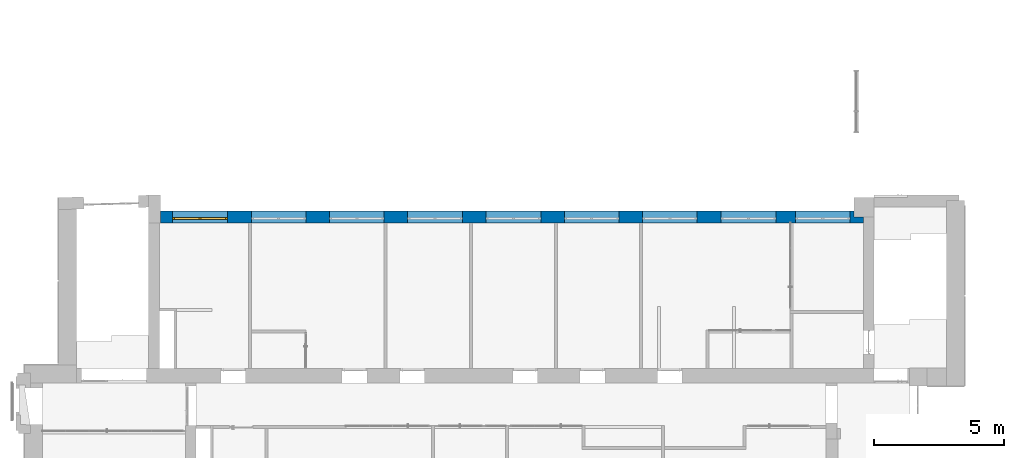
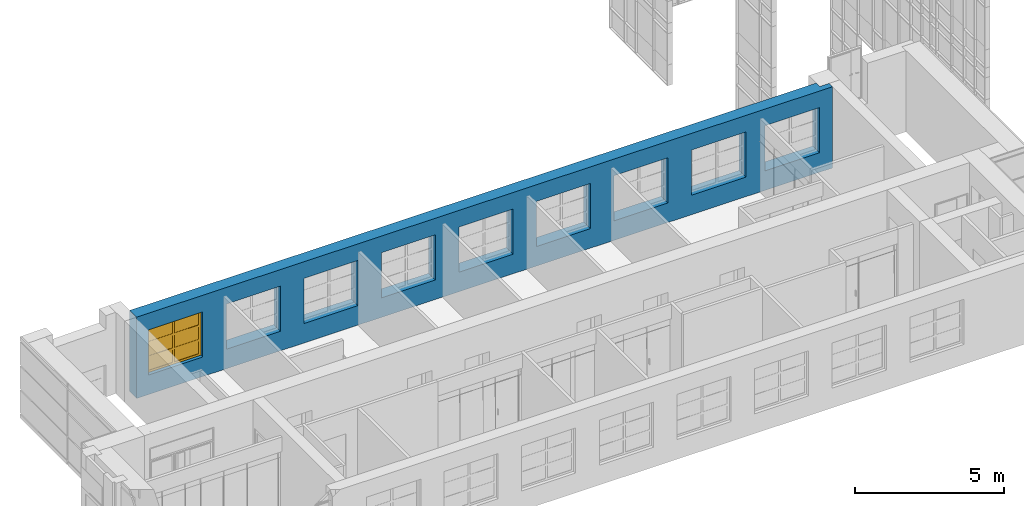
# One storey, part 59 of 73: 1 wall, 1 window, 9 openings.
"""IFC2X3 building model written with IfcOpenShell, lengths in millimetres."""

from ifc_helpers import new_model, entity, si_unit, converted_unit, derived_unit, direction, frame, frame_2d, origin, origin_2d_with_axis, place, context, subcontext, project, spatial, polyline, rectangle, outline, extrude, face_set, surface_model, source, transform, mapped, material, material_list, layer, layer_set, layer_usage, type_object, type_shapes, element, fill, save


model = new_model("IFC2X3")

# Units and contexts
model_context = context("Model", 3, precision=0.01, world=origin(), true_north=direction((6.12303176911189e-17, 1.0)))
body_context = subcontext(model_context, "Body", "Model", "MODEL_VIEW")
ifc_project = project(units=[si_unit("LENGTHUNIT", "METRE", prefix="MILLI"), si_unit("AREAUNIT", "SQUARE_METRE"), si_unit("VOLUMEUNIT", "CUBIC_METRE"), converted_unit("PLANEANGLEUNIT", "DEGREE", entity("IfcRatioMeasure", 0.0174532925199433), si_unit("PLANEANGLEUNIT", "RADIAN"), dimensions=[0, 0, 0, 0, 0, 0, 0]), si_unit("MASSUNIT", "GRAM", prefix="KILO"), derived_unit("MASSDENSITYUNIT", [(si_unit("MASSUNIT", "GRAM", prefix="KILO"), 1), (si_unit("LENGTHUNIT", "METRE"), -3)]), si_unit("TIMEUNIT", "SECOND"), si_unit("FREQUENCYUNIT", "HERTZ"), si_unit("THERMODYNAMICTEMPERATUREUNIT", "DEGREE_CELSIUS"), derived_unit("THERMALTRANSMITTANCEUNIT", [(si_unit("MASSUNIT", "GRAM", prefix="KILO"), 1), (si_unit("THERMODYNAMICTEMPERATUREUNIT", "KELVIN"), -1), (si_unit("TIMEUNIT", "SECOND"), -3)]), derived_unit("VOLUMETRICFLOWRATEUNIT", [(si_unit("LENGTHUNIT", "METRE"), 3), (si_unit("TIMEUNIT", "SECOND"), -1)]), si_unit("ELECTRICCURRENTUNIT", "AMPERE"), si_unit("ELECTRICVOLTAGEUNIT", "VOLT"), si_unit("POWERUNIT", "WATT"), si_unit("FORCEUNIT", "NEWTON", prefix="KILO"), si_unit("ILLUMINANCEUNIT", "LUX"), si_unit("LUMINOUSFLUXUNIT", "LUMEN"), si_unit("LUMINOUSINTENSITYUNIT", "CANDELA"), derived_unit("USERDEFINED", [(si_unit("MASSUNIT", "GRAM", prefix="KILO"), -1), (si_unit("LENGTHUNIT", "METRE"), -2), (si_unit("TIMEUNIT", "SECOND"), 3), (si_unit("LUMINOUSFLUXUNIT", "LUMEN"), 1)]), derived_unit("LINEARVELOCITYUNIT", [(si_unit("LENGTHUNIT", "METRE"), 1), (si_unit("TIMEUNIT", "SECOND"), -1)]), si_unit("PRESSUREUNIT", "PASCAL"), derived_unit("USERDEFINED", [(si_unit("LENGTHUNIT", "METRE"), -2), (si_unit("MASSUNIT", "GRAM", prefix="KILO"), 1), (si_unit("TIMEUNIT", "SECOND"), -2)])], contexts=[model_context])

# Site, building, storey
site_placement = place(None, frame((-151.875543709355, 2715.0, 0.0)))
site = spatial("IfcSite", under=ifc_project, at=site_placement, Name="Surface", CompositionType="ELEMENT")
building_placement = place(site_placement, origin())
building = spatial("IfcBuilding", under=site, at=building_placement, CompositionType="ELEMENT")
storey_placement = place(building_placement, frame((0.0, 0.0, 6730.43000000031)))
storey = spatial("IfcBuildingStorey", under=building, at=storey_placement, Name="3 korrus", CompositionType="ELEMENT", Elevation=6730.43000000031)

# Wall, openings, window
ifc_material_1 = material(Name="Brick, Common")
ifc_layer_1 = layer(ifc_material_1, 440.0)
ifc_material_2 = material(Name="__Kips GN13_tava")
ifc_layer_2 = layer(ifc_material_2, 20.0)
ifc_layer_set = layer_set([ifc_layer_1, ifc_layer_2], Name="Basic Wall:VS-1")
ifc_layer_usage = layer_usage(ifc_layer_set, "AXIS2", "POSITIVE", -230.0)
wall_type = type_object("IfcWallType", Name="Basic Wall:VS-1", PredefinedType="STANDARD", material=ifc_layer_set)
wall_placement = place(storey_placement, frame((31972.6162682, 12380.0, 0.00203353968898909), z_axis=(0.0, 0.0, 1.0), x_axis=(-1.0, 0.0, 0.0)))
wall = element("IfcWallStandardCase", 1, at=wall_placement, inside=storey, type_object=wall_type, material=ifc_layer_usage, Name="SEIN - 005", ObjectType="Basic Wall:VS-1", context=body_context, shape_type="SweptSolid", body=[
    extrude(outline(polyline([(26972.5418693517, -230.0), (26972.5418693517, 230.0), (0.0, 230.0), (0.0, 0.0), (370.0, 0.0), (370.0, -230.0), (26972.5418693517, -230.0)])), origin(), (0.0, 0.0, 1.0), 3329.56796646),
])
opening_1_placement = place(wall_placement, frame((31972.6162682, 12380.0, -0.00203353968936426), z_axis=(0.0, 0.0, 1.0), x_axis=(-1.0, 0.0, 0.0)))
opening_1 = element("IfcOpeningElement", 2, at=opening_1_placement, cuts=wall, Name="SEIN - 005", ObjectType="Opening", context=body_context, shape_type="SweptSolid", body=[
    extrude(rectangle(XDim=1850.0, YDim=2100.0, at=frame_2d((0.0, -5.6843418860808e-13), x_axis=(1.0, 0.0))), frame((6512.84934801, 13077.9, 1725.00203353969), z_axis=(0.0, -1.0, 0.0), x_axis=(0.0, 0.0, 1.0)), (0.0, 0.0, 1.0), 1393.8),
])
opening_2_placement = place(wall_placement, frame((31972.6162682, 12380.0, -0.00203353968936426), z_axis=(0.0, 0.0, 1.0), x_axis=(-1.0, 0.0, 0.0)))
element("IfcOpeningElement", 3, at=opening_2_placement, cuts=wall, Name="SEIN - 005", ObjectType="Opening", context=body_context, shape_type="SweptSolid", body=[
    extrude(rectangle(XDim=1850.0, YDim=2100.0, at=origin_2d_with_axis()), frame((9532.84934801, 13077.9, 1725.00203353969), z_axis=(0.0, -1.0, 0.0), x_axis=(0.0, 0.0, 1.0)), (0.0, 0.0, 1.0), 1393.8),
])
opening_3_placement = place(wall_placement, frame((31972.6162682, 12380.0, -0.00203353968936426), z_axis=(0.0, 0.0, 1.0), x_axis=(-1.0, 0.0, 0.0)))
element("IfcOpeningElement", 4, at=opening_3_placement, cuts=wall, Name="SEIN - 005", ObjectType="Opening", context=body_context, shape_type="SweptSolid", body=[
    extrude(rectangle(XDim=1850.0, YDim=2100.0, at=frame_2d((0.0, -1.02318153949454e-12), x_axis=(1.0, 0.0))), frame((12532.84934801, 13077.9, 1725.00203353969), z_axis=(0.0, -1.0, 0.0), x_axis=(0.0, 0.0, 1.0)), (0.0, 0.0, 1.0), 1393.8),
])
opening_4_placement = place(wall_placement, frame((31972.6162682, 12380.0, -0.00203353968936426), z_axis=(0.0, 0.0, 1.0), x_axis=(-1.0, 0.0, 0.0)))
element("IfcOpeningElement", 5, at=opening_4_placement, cuts=wall, Name="SEIN - 005", ObjectType="Opening", context=body_context, shape_type="SweptSolid", body=[
    extrude(rectangle(XDim=1850.0, YDim=2100.0, at=origin_2d_with_axis()), frame((15532.849348, 13077.9, 1725.00203353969), z_axis=(0.0, -1.0, 0.0), x_axis=(0.0, 0.0, 1.0)), (0.0, 0.0, 1.0), 1393.8),
])
opening_5_placement = place(wall_placement, frame((31972.6162682, 12380.0, -0.00203353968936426), z_axis=(0.0, 0.0, 1.0), x_axis=(-1.0, 0.0, 0.0)))
element("IfcOpeningElement", 6, at=opening_5_placement, cuts=wall, Name="SEIN - 005", ObjectType="Opening", context=body_context, shape_type="SweptSolid", body=[
    extrude(rectangle(XDim=1850.0, YDim=2100.0, at=origin_2d_with_axis()), frame((18542.849348, 13077.9, 1725.00203353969), z_axis=(0.0, -1.0, 0.0), x_axis=(0.0, 0.0, 1.0)), (0.0, 0.0, 1.0), 1393.8),
])
opening_6_placement = place(wall_placement, frame((31972.6162682, 12380.0, -0.00203353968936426), z_axis=(0.0, 0.0, 1.0), x_axis=(-1.0, 0.0, 0.0)))
element("IfcOpeningElement", 7, at=opening_6_placement, cuts=wall, Name="SEIN - 005", ObjectType="Opening", context=body_context, shape_type="SweptSolid", body=[
    extrude(rectangle(XDim=1850.0, YDim=2100.0, at=origin_2d_with_axis()), frame((21543.0530903, 13077.9, 1725.00203353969), z_axis=(0.0, -1.0, 0.0), x_axis=(0.0, 0.0, 1.0)), (0.0, 0.0, 1.0), 1393.8),
])
opening_7_placement = place(wall_placement, frame((31972.6162682, 12380.0, -0.00203353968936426), z_axis=(0.0, 0.0, 1.0), x_axis=(-1.0, 0.0, 0.0)))
element("IfcOpeningElement", 8, at=opening_7_placement, cuts=wall, Name="SEIN - 005", ObjectType="Opening", context=body_context, shape_type="SweptSolid", body=[
    extrude(rectangle(XDim=1850.0, YDim=2100.0, at=origin_2d_with_axis()), frame((24543.0530903, 13077.9, 1725.00203353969), z_axis=(0.0, -1.0, 0.0), x_axis=(0.0, 0.0, 1.0)), (0.0, 0.0, 1.0), 1393.8),
])
opening_8_placement = place(wall_placement, frame((31972.6162682, 12380.0, -0.00203353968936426), z_axis=(0.0, 0.0, 1.0), x_axis=(-1.0, 0.0, 0.0)))
element("IfcOpeningElement", 9, at=opening_8_placement, cuts=wall, Name="SEIN - 005", ObjectType="Opening", context=body_context, shape_type="SweptSolid", body=[
    extrude(rectangle(XDim=1850.0, YDim=2100.0, at=origin_2d_with_axis()), frame((27563.0530903, 13077.9, 1725.00203353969), z_axis=(0.0, -1.0, 0.0), x_axis=(0.0, 0.0, 1.0)), (0.0, 0.0, 1.0), 1393.8),
])
opening_9_placement = place(wall_placement, frame((31972.6162682, 12380.0, -0.00203353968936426), z_axis=(0.0, 0.0, 1.0), x_axis=(-1.0, 0.0, 0.0)))
element("IfcOpeningElement", 10, at=opening_9_placement, cuts=wall, Name="SEIN - 005", ObjectType="Opening", context=body_context, shape_type="SweptSolid", body=[
    extrude(rectangle(XDim=1850.0, YDim=2100.0, at=origin_2d_with_axis()), frame((30412.5729235, 13077.9, 1725.00203353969), z_axis=(0.0, -1.0, 0.0), x_axis=(0.0, 0.0, 1.0)), (0.0, 0.0, 1.0), 1393.8),
])
ifc_material_3 = material(Name="Paint - Titanium White")
ifc_material_4 = material(Name="Paint - Dark Gray")
ifc_material_5 = material(Name="Glass - Clear Fast")
ifc_material_list_1 = material_list([ifc_material_3, ifc_material_4, ifc_material_5])
ifc_material_list_2 = material_list([ifc_material_3, ifc_material_4, ifc_material_5])
window_style = type_object("IfcWindowStyle", Name="Aken_1850x2100", ConstructionType="NOTDEFINED", OperationType="DOUBLE_PANEL_VERTICAL", ParameterTakesPrecedence=False, Sizeable=False, material=ifc_material_list_2)
shared_shape = source(origin(), body_context, "Body", "SurfaceModel", [
    surface_model("IfcFaceBasedSurfaceModel", [(80.0, -665.9, 1770.0), (80.0, -620.9, 1770.0), (0.0, -620.9, 1770.0), (0.0, -665.9, 1770.0), (80.0, -665.9, 80.0), (80.0, -620.9, 80.0), (80.0, -620.9, 1770.0), (80.0, -665.9, 1770.0), (80.0, -620.9, 1770.0), (80.0, -620.9, 80.0), (0.0, -620.9, 80.0), (0.0, -620.9, 1770.0), (0.0, -665.9, 1770.0), (0.0, -620.9, 1770.0), (0.0, -620.9, 80.0), (0.0, -665.9, 80.0), (80.0, -665.9, 1770.0), (0.0, -665.9, 1770.0), (0.0, -665.9, 80.0), (80.0, -665.9, 80.0), (0.0, -665.9, 80.0), (0.0, -620.9, 80.0), (80.0, -620.9, 80.0), (80.0, -665.9, 80.0), (2020.0, -665.9, 80.0), (2020.0, -620.9, 80.0), (2100.0, -620.9, 80.0), (2100.0, -665.9, 80.0), (2020.0, -665.9, 1770.0), (2020.0, -620.9, 1770.0), (2020.0, -620.9, 80.0), (2020.0, -665.9, 80.0), (2020.0, -620.9, 80.0), (2020.0, -620.9, 1770.0), (2100.0, -620.9, 1770.0), (2100.0, -620.9, 80.0), (2100.0, -665.9, 80.0), (2100.0, -620.9, 80.0), (2100.0, -620.9, 1770.0), (2100.0, -665.9, 1770.0), (2020.0, -665.9, 80.0), (2100.0, -665.9, 80.0), (2100.0, -665.9, 1770.0), (2020.0, -665.9, 1770.0), (2100.0, -665.9, 1770.0), (2100.0, -620.9, 1770.0), (2020.0, -620.9, 1770.0), (2020.0, -665.9, 1770.0), (1010.0, -665.9, 80.0), (1010.0, -620.9, 80.0), (1090.0, -620.9, 80.0), (1090.0, -665.9, 80.0), (1010.0, -665.9, 1770.0), (1010.0, -620.9, 1770.0), (1010.0, -620.9, 80.0), (1010.0, -665.9, 80.0), (1010.0, -620.9, 80.0), (1010.0, -620.9, 1770.0), (1090.0, -620.9, 1770.0), (1090.0, -620.9, 80.0), (1090.0, -665.9, 80.0), (1090.0, -620.9, 80.0), (1090.0, -620.9, 1770.0), (1090.0, -665.9, 1770.0), (1010.0, -665.9, 80.0), (1090.0, -665.9, 80.0), (1090.0, -665.9, 1770.0), (1010.0, -665.9, 1770.0), (1090.0, -665.9, 1770.0), (1090.0, -620.9, 1770.0), (1010.0, -620.9, 1770.0), (1010.0, -665.9, 1770.0), (80.0, -665.9, 80.0), (80.0, -620.9, 80.0), (0.0, -620.9, 80.0), (0.0, -665.9, 80.0), (1010.0, -665.9, 80.0), (1010.0, -620.9, 80.0), (80.0, -620.9, 80.0), (80.0, -665.9, 80.0), (80.0, -620.9, 80.0), (1010.0, -620.9, 80.0), (1090.0, -620.9, 80.0), (2020.0, -620.9, 80.0), (2100.0, -620.9, 80.0), (2100.0, -620.9, 0.0), (0.0, -620.9, 0.0), (0.0, -620.9, 80.0), (0.0, -665.9, 80.0), (0.0, -620.9, 80.0), (0.0, -620.9, 0.0), (0.0, -665.9, 0.0), (80.0, -665.9, 80.0), (0.0, -665.9, 80.0), (0.0, -665.9, 0.0), (2100.0, -665.9, 0.0), (2100.0, -665.9, 80.0), (2020.0, -665.9, 80.0), (1090.0, -665.9, 80.0), (1010.0, -665.9, 80.0), (1090.0, -665.9, 80.0), (1090.0, -620.9, 80.0), (1010.0, -620.9, 80.0), (1010.0, -665.9, 80.0), (2020.0, -665.9, 80.0), (2020.0, -620.9, 80.0), (1090.0, -620.9, 80.0), (1090.0, -665.9, 80.0), (2100.0, -665.9, 80.0), (2100.0, -620.9, 80.0), (2020.0, -620.9, 80.0), (2020.0, -665.9, 80.0), (2100.0, -665.9, 0.0), (2100.0, -620.9, 0.0), (2100.0, -620.9, 80.0), (2100.0, -665.9, 80.0), (0.0, -665.9, 0.0), (0.0, -620.9, 0.0), (2100.0, -620.9, 0.0), (2100.0, -665.9, 0.0), (1010.0, -665.9, 1770.0), (1010.0, -620.9, 1770.0), (1090.0, -620.9, 1770.0), (1090.0, -665.9, 1770.0), (80.0, -665.9, 1770.0), (80.0, -620.9, 1770.0), (1010.0, -620.9, 1770.0), (1010.0, -665.9, 1770.0), (1010.0, -620.9, 1770.0), (80.0, -620.9, 1770.0), (0.0, -620.9, 1770.0), (0.0, -620.9, 1850.0), (2100.0, -620.9, 1850.0), (2100.0, -620.9, 1770.0), (2020.0, -620.9, 1770.0), (1090.0, -620.9, 1770.0), (1090.0, -665.9, 1770.0), (1090.0, -620.9, 1770.0), (2020.0, -620.9, 1770.0), (2020.0, -665.9, 1770.0), (1010.0, -665.9, 1770.0), (1090.0, -665.9, 1770.0), (2020.0, -665.9, 1770.0), (2100.0, -665.9, 1770.0), (2100.0, -665.9, 1850.0), (0.0, -665.9, 1850.0), (0.0, -665.9, 1770.0), (80.0, -665.9, 1770.0), (0.0, -665.9, 1770.0), (0.0, -620.9, 1770.0), (80.0, -620.9, 1770.0), (80.0, -665.9, 1770.0), (0.0, -665.9, 1850.0), (0.0, -620.9, 1850.0), (0.0, -620.9, 1770.0), (0.0, -665.9, 1770.0), (2100.0, -665.9, 1850.0), (2100.0, -620.9, 1850.0), (0.0, -620.9, 1850.0), (0.0, -665.9, 1850.0), (2100.0, -665.9, 1770.0), (2100.0, -620.9, 1770.0), (2100.0, -620.9, 1850.0), (2100.0, -665.9, 1850.0), (2020.0, -665.9, 1770.0), (2020.0, -620.9, 1770.0), (2100.0, -620.9, 1770.0), (2100.0, -665.9, 1770.0), (80.0, -640.9, 590.0), (80.0, -630.9, 590.0), (1010.0, -630.9, 590.0), (1010.0, -640.9, 590.0), (80.0, -640.9, 670.0), (80.0, -630.9, 670.0), (80.0, -630.9, 590.0), (80.0, -640.9, 590.0), (80.0, -630.9, 590.0), (80.0, -630.9, 670.0), (1010.0, -630.9, 670.0), (1010.0, -630.9, 590.0), (1010.0, -640.9, 590.0), (1010.0, -630.9, 590.0), (1010.0, -630.9, 670.0), (1010.0, -640.9, 670.0), (80.0, -640.9, 590.0), (1010.0, -640.9, 590.0), (1010.0, -640.9, 670.0), (80.0, -640.9, 670.0), (1010.0, -640.9, 670.0), (1010.0, -630.9, 670.0), (80.0, -630.9, 670.0), (80.0, -640.9, 670.0), (80.0, -640.9, 1180.0), (80.0, -630.9, 1180.0), (1010.0, -630.9, 1180.0), (1010.0, -640.9, 1180.0), (80.0, -640.9, 1260.0), (80.0, -630.9, 1260.0), (80.0, -630.9, 1180.0), (80.0, -640.9, 1180.0), (80.0, -630.9, 1180.0), (80.0, -630.9, 1260.0), (1010.0, -630.9, 1260.0), (1010.0, -630.9, 1180.0), (1010.0, -640.9, 1180.0), (1010.0, -630.9, 1180.0), (1010.0, -630.9, 1260.0), (1010.0, -640.9, 1260.0), (80.0, -640.9, 1180.0), (1010.0, -640.9, 1180.0), (1010.0, -640.9, 1260.0), (80.0, -640.9, 1260.0), (1010.0, -640.9, 1260.0), (1010.0, -630.9, 1260.0), (80.0, -630.9, 1260.0), (80.0, -640.9, 1260.0), (1090.0, -640.9, 590.0), (1090.0, -630.9, 590.0), (2020.0, -630.9, 590.0), (2020.0, -640.9, 590.0), (1090.0, -640.9, 670.0), (1090.0, -630.9, 670.0), (1090.0, -630.9, 590.0), (1090.0, -640.9, 590.0), (1090.0, -630.9, 590.0), (1090.0, -630.9, 670.0), (2020.0, -630.9, 670.0), (2020.0, -630.9, 590.0), (2020.0, -640.9, 590.0), (2020.0, -630.9, 590.0), (2020.0, -630.9, 670.0), (2020.0, -640.9, 670.0), (1090.0, -640.9, 590.0), (2020.0, -640.9, 590.0), (2020.0, -640.9, 670.0), (1090.0, -640.9, 670.0), (2020.0, -640.9, 670.0), (2020.0, -630.9, 670.0), (1090.0, -630.9, 670.0), (1090.0, -640.9, 670.0), (1090.0, -640.9, 1180.0), (1090.0, -630.9, 1180.0), (2020.0, -630.9, 1180.0), (2020.0, -640.9, 1180.0), (1090.0, -640.9, 1260.0), (1090.0, -630.9, 1260.0), (1090.0, -630.9, 1180.0), (1090.0, -640.9, 1180.0), (1090.0, -630.9, 1180.0), (1090.0, -630.9, 1260.0), (2020.0, -630.9, 1260.0), (2020.0, -630.9, 1180.0), (2020.0, -640.9, 1180.0), (2020.0, -630.9, 1180.0), (2020.0, -630.9, 1260.0), (2020.0, -640.9, 1260.0), (1090.0, -640.9, 1180.0), (2020.0, -640.9, 1180.0), (2020.0, -640.9, 1260.0), (1090.0, -640.9, 1260.0), (2020.0, -640.9, 1260.0), (2020.0, -630.9, 1260.0), (1090.0, -630.9, 1260.0), (1090.0, -640.9, 1260.0)], [face_set([[[0, 1, 2, 3]]]), face_set([[[4, 5, 6, 7]]]), face_set([[[8, 9, 10, 11]]]), face_set([[[12, 13, 14, 15]]]), face_set([[[16, 17, 18, 19]]]), face_set([[[20, 21, 22, 23]]]), face_set([[[24, 25, 26, 27]]]), face_set([[[28, 29, 30, 31]]]), face_set([[[32, 33, 34, 35]]]), face_set([[[36, 37, 38, 39]]]), face_set([[[40, 41, 42, 43]]]), face_set([[[44, 45, 46, 47]]]), face_set([[[48, 49, 50, 51]]]), face_set([[[52, 53, 54, 55]]]), face_set([[[56, 57, 58, 59]]]), face_set([[[60, 61, 62, 63]]]), face_set([[[64, 65, 66, 67]]]), face_set([[[68, 69, 70, 71]]]), face_set([[[72, 73, 74, 75]]]), face_set([[[76, 77, 78, 79]]]), face_set([[[80, 81, 82, 83, 84, 85, 86, 87]]]), face_set([[[88, 89, 90, 91]]]), face_set([[[92, 93, 94, 95, 96, 97, 98, 99]]]), face_set([[[100, 101, 102, 103]]]), face_set([[[104, 105, 106, 107]]]), face_set([[[108, 109, 110, 111]]]), face_set([[[112, 113, 114, 115]]]), face_set([[[116, 117, 118, 119]]]), face_set([[[120, 121, 122, 123]]]), face_set([[[124, 125, 126, 127]]]), face_set([[[128, 129, 130, 131, 132, 133, 134, 135]]]), face_set([[[136, 137, 138, 139]]]), face_set([[[140, 141, 142, 143, 144, 145, 146, 147]]]), face_set([[[148, 149, 150, 151]]]), face_set([[[152, 153, 154, 155]]]), face_set([[[156, 157, 158, 159]]]), face_set([[[160, 161, 162, 163]]]), face_set([[[164, 165, 166, 167]]]), face_set([[[168, 169, 170, 171]]]), face_set([[[172, 173, 174, 175]]]), face_set([[[176, 177, 178, 179]]]), face_set([[[180, 181, 182, 183]]]), face_set([[[184, 185, 186, 187]]]), face_set([[[188, 189, 190, 191]]]), face_set([[[192, 193, 194, 195]]]), face_set([[[196, 197, 198, 199]]]), face_set([[[200, 201, 202, 203]]]), face_set([[[204, 205, 206, 207]]]), face_set([[[208, 209, 210, 211]]]), face_set([[[212, 213, 214, 215]]]), face_set([[[216, 217, 218, 219]]]), face_set([[[220, 221, 222, 223]]]), face_set([[[224, 225, 226, 227]]]), face_set([[[228, 229, 230, 231]]]), face_set([[[232, 233, 234, 235]]]), face_set([[[236, 237, 238, 239]]]), face_set([[[240, 241, 242, 243]]]), face_set([[[244, 245, 246, 247]]]), face_set([[[248, 249, 250, 251]]]), face_set([[[252, 253, 254, 255]]]), face_set([[[256, 257, 258, 259]]]), face_set([[[260, 261, 262, 263]]])]),
    surface_model("IfcFaceBasedSurfaceModel", [(80.0, -620.9, 1770.0), (80.0, -595.9, 1770.0), (0.0, -595.9, 1770.0), (0.0, -620.9, 1770.0), (80.0, -620.9, 80.0), (80.0, -595.9, 80.0), (80.0, -595.9, 1770.0), (80.0, -620.9, 1770.0), (80.0, -595.9, 1770.0), (80.0, -595.9, 80.0), (0.0, -595.9, 80.0), (0.0, -595.9, 1770.0), (0.0, -620.9, 1770.0), (0.0, -595.9, 1770.0), (0.0, -595.9, 80.0), (0.0, -620.9, 80.0), (80.0, -620.9, 1770.0), (0.0, -620.9, 1770.0), (0.0, -620.9, 80.0), (80.0, -620.9, 80.0), (0.0, -620.9, 80.0), (0.0, -595.9, 80.0), (80.0, -595.9, 80.0), (80.0, -620.9, 80.0), (2020.0, -620.9, 80.0), (2020.0, -595.9, 80.0), (2100.0, -595.9, 80.0), (2100.0, -620.9, 80.0), (2020.0, -620.9, 1770.0), (2020.0, -595.9, 1770.0), (2020.0, -595.9, 80.0), (2020.0, -620.9, 80.0), (2020.0, -595.9, 80.0), (2020.0, -595.9, 1770.0), (2100.0, -595.9, 1770.0), (2100.0, -595.9, 80.0), (2100.0, -620.9, 80.0), (2100.0, -595.9, 80.0), (2100.0, -595.9, 1770.0), (2100.0, -620.9, 1770.0), (2020.0, -620.9, 80.0), (2100.0, -620.9, 80.0), (2100.0, -620.9, 1770.0), (2020.0, -620.9, 1770.0), (2100.0, -620.9, 1770.0), (2100.0, -595.9, 1770.0), (2020.0, -595.9, 1770.0), (2020.0, -620.9, 1770.0), (1010.0, -620.9, 80.0), (1010.0, -595.9, 80.0), (1090.0, -595.9, 80.0), (1090.0, -620.9, 80.0), (1010.0, -620.9, 1770.0), (1010.0, -595.9, 1770.0), (1010.0, -595.9, 80.0), (1010.0, -620.9, 80.0), (1010.0, -595.9, 80.0), (1010.0, -595.9, 1770.0), (1090.0, -595.9, 1770.0), (1090.0, -595.9, 80.0), (1090.0, -620.9, 80.0), (1090.0, -595.9, 80.0), (1090.0, -595.9, 1770.0), (1090.0, -620.9, 1770.0), (1010.0, -620.9, 80.0), (1090.0, -620.9, 80.0), (1090.0, -620.9, 1770.0), (1010.0, -620.9, 1770.0), (1090.0, -620.9, 1770.0), (1090.0, -595.9, 1770.0), (1010.0, -595.9, 1770.0), (1010.0, -620.9, 1770.0), (80.0, -620.9, 80.0), (80.0, -595.9, 80.0), (0.0, -595.9, 80.0), (0.0, -620.9, 80.0), (1010.0, -620.9, 80.0), (1010.0, -595.9, 80.0), (80.0, -595.9, 80.0), (80.0, -620.9, 80.0), (80.0, -595.9, 80.0), (1010.0, -595.9, 80.0), (1090.0, -595.9, 80.0), (2020.0, -595.9, 80.0), (2100.0, -595.9, 80.0), (2100.0, -595.9, 0.0), (0.0, -595.9, 0.0), (0.0, -595.9, 80.0), (0.0, -620.9, 80.0), (0.0, -595.9, 80.0), (0.0, -595.9, 0.0), (0.0, -620.9, 0.0), (80.0, -620.9, 80.0), (0.0, -620.9, 80.0), (0.0, -620.9, 0.0), (2100.0, -620.9, 0.0), (2100.0, -620.9, 80.0), (2020.0, -620.9, 80.0), (1090.0, -620.9, 80.0), (1010.0, -620.9, 80.0), (1090.0, -620.9, 80.0), (1090.0, -595.9, 80.0), (1010.0, -595.9, 80.0), (1010.0, -620.9, 80.0), (2020.0, -620.9, 80.0), (2020.0, -595.9, 80.0), (1090.0, -595.9, 80.0), (1090.0, -620.9, 80.0), (2100.0, -620.9, 80.0), (2100.0, -595.9, 80.0), (2020.0, -595.9, 80.0), (2020.0, -620.9, 80.0), (2100.0, -620.9, 0.0), (2100.0, -595.9, 0.0), (2100.0, -595.9, 80.0), (2100.0, -620.9, 80.0), (0.0, -620.9, 0.0), (0.0, -595.9, 0.0), (2100.0, -595.9, 0.0), (2100.0, -620.9, 0.0), (1010.0, -620.9, 1770.0), (1010.0, -595.9, 1770.0), (1090.0, -595.9, 1770.0), (1090.0, -620.9, 1770.0), (80.0, -620.9, 1770.0), (80.0, -595.9, 1770.0), (1010.0, -595.9, 1770.0), (1010.0, -620.9, 1770.0), (1010.0, -595.9, 1770.0), (80.0, -595.9, 1770.0), (0.0, -595.9, 1770.0), (0.0, -595.9, 1850.0), (2100.0, -595.9, 1850.0), (2100.0, -595.9, 1770.0), (2020.0, -595.9, 1770.0), (1090.0, -595.9, 1770.0), (1090.0, -620.9, 1770.0), (1090.0, -595.9, 1770.0), (2020.0, -595.9, 1770.0), (2020.0, -620.9, 1770.0), (1010.0, -620.9, 1770.0), (1090.0, -620.9, 1770.0), (2020.0, -620.9, 1770.0), (2100.0, -620.9, 1770.0), (2100.0, -620.9, 1850.0), (0.0, -620.9, 1850.0), (0.0, -620.9, 1770.0), (80.0, -620.9, 1770.0), (0.0, -620.9, 1770.0), (0.0, -595.9, 1770.0), (80.0, -595.9, 1770.0), (80.0, -620.9, 1770.0), (0.0, -620.9, 1850.0), (0.0, -595.9, 1850.0), (0.0, -595.9, 1770.0), (0.0, -620.9, 1770.0), (2100.0, -620.9, 1850.0), (2100.0, -595.9, 1850.0), (0.0, -595.9, 1850.0), (0.0, -620.9, 1850.0), (2100.0, -620.9, 1770.0), (2100.0, -595.9, 1770.0), (2100.0, -595.9, 1850.0), (2100.0, -620.9, 1850.0), (2020.0, -620.9, 1770.0), (2020.0, -595.9, 1770.0), (2100.0, -595.9, 1770.0), (2100.0, -620.9, 1770.0), (80.0, -630.9, 590.0), (80.0, -600.9, 590.0), (1010.0, -600.9, 590.0), (1010.0, -630.9, 590.0), (80.0, -630.9, 670.0), (80.0, -600.9, 670.0), (80.0, -600.9, 590.0), (80.0, -630.9, 590.0), (80.0, -600.9, 590.0), (80.0, -600.9, 670.0), (1010.0, -600.9, 670.0), (1010.0, -600.9, 590.0), (1010.0, -630.9, 590.0), (1010.0, -600.9, 590.0), (1010.0, -600.9, 670.0), (1010.0, -630.9, 670.0), (80.0, -630.9, 590.0), (1010.0, -630.9, 590.0), (1010.0, -630.9, 670.0), (80.0, -630.9, 670.0), (1010.0, -630.9, 670.0), (1010.0, -600.9, 670.0), (80.0, -600.9, 670.0), (80.0, -630.9, 670.0), (80.0, -630.9, 1180.0), (80.0, -600.9, 1180.0), (1010.0, -600.9, 1180.0), (1010.0, -630.9, 1180.0), (80.0, -630.9, 1260.0), (80.0, -600.9, 1260.0), (80.0, -600.9, 1180.0), (80.0, -630.9, 1180.0), (80.0, -600.9, 1180.0), (80.0, -600.9, 1260.0), (1010.0, -600.9, 1260.0), (1010.0, -600.9, 1180.0), (1010.0, -630.9, 1180.0), (1010.0, -600.9, 1180.0), (1010.0, -600.9, 1260.0), (1010.0, -630.9, 1260.0), (80.0, -630.9, 1180.0), (1010.0, -630.9, 1180.0), (1010.0, -630.9, 1260.0), (80.0, -630.9, 1260.0), (1010.0, -630.9, 1260.0), (1010.0, -600.9, 1260.0), (80.0, -600.9, 1260.0), (80.0, -630.9, 1260.0), (1090.0, -630.9, 590.0), (1090.0, -600.9, 590.0), (2020.0, -600.9, 590.0), (2020.0, -630.9, 590.0), (1090.0, -630.9, 670.0), (1090.0, -600.9, 670.0), (1090.0, -600.9, 590.0), (1090.0, -630.9, 590.0), (1090.0, -600.9, 590.0), (1090.0, -600.9, 670.0), (2020.0, -600.9, 670.0), (2020.0, -600.9, 590.0), (2020.0, -630.9, 590.0), (2020.0, -600.9, 590.0), (2020.0, -600.9, 670.0), (2020.0, -630.9, 670.0), (1090.0, -630.9, 590.0), (2020.0, -630.9, 590.0), (2020.0, -630.9, 670.0), (1090.0, -630.9, 670.0), (2020.0, -630.9, 670.0), (2020.0, -600.9, 670.0), (1090.0, -600.9, 670.0), (1090.0, -630.9, 670.0), (1090.0, -630.9, 1180.0), (1090.0, -600.9, 1180.0), (2020.0, -600.9, 1180.0), (2020.0, -630.9, 1180.0), (1090.0, -630.9, 1260.0), (1090.0, -600.9, 1260.0), (1090.0, -600.9, 1180.0), (1090.0, -630.9, 1180.0), (1090.0, -600.9, 1180.0), (1090.0, -600.9, 1260.0), (2020.0, -600.9, 1260.0), (2020.0, -600.9, 1180.0), (2020.0, -630.9, 1180.0), (2020.0, -600.9, 1180.0), (2020.0, -600.9, 1260.0), (2020.0, -630.9, 1260.0), (1090.0, -630.9, 1180.0), (2020.0, -630.9, 1180.0), (2020.0, -630.9, 1260.0), (1090.0, -630.9, 1260.0), (2020.0, -630.9, 1260.0), (2020.0, -600.9, 1260.0), (1090.0, -600.9, 1260.0), (1090.0, -630.9, 1260.0)], [face_set([[[0, 1, 2, 3]]]), face_set([[[4, 5, 6, 7]]]), face_set([[[8, 9, 10, 11]]]), face_set([[[12, 13, 14, 15]]]), face_set([[[16, 17, 18, 19]]]), face_set([[[20, 21, 22, 23]]]), face_set([[[24, 25, 26, 27]]]), face_set([[[28, 29, 30, 31]]]), face_set([[[32, 33, 34, 35]]]), face_set([[[36, 37, 38, 39]]]), face_set([[[40, 41, 42, 43]]]), face_set([[[44, 45, 46, 47]]]), face_set([[[48, 49, 50, 51]]]), face_set([[[52, 53, 54, 55]]]), face_set([[[56, 57, 58, 59]]]), face_set([[[60, 61, 62, 63]]]), face_set([[[64, 65, 66, 67]]]), face_set([[[68, 69, 70, 71]]]), face_set([[[72, 73, 74, 75]]]), face_set([[[76, 77, 78, 79]]]), face_set([[[80, 81, 82, 83, 84, 85, 86, 87]]]), face_set([[[88, 89, 90, 91]]]), face_set([[[92, 93, 94, 95, 96, 97, 98, 99]]]), face_set([[[100, 101, 102, 103]]]), face_set([[[104, 105, 106, 107]]]), face_set([[[108, 109, 110, 111]]]), face_set([[[112, 113, 114, 115]]]), face_set([[[116, 117, 118, 119]]]), face_set([[[120, 121, 122, 123]]]), face_set([[[124, 125, 126, 127]]]), face_set([[[128, 129, 130, 131, 132, 133, 134, 135]]]), face_set([[[136, 137, 138, 139]]]), face_set([[[140, 141, 142, 143, 144, 145, 146, 147]]]), face_set([[[148, 149, 150, 151]]]), face_set([[[152, 153, 154, 155]]]), face_set([[[156, 157, 158, 159]]]), face_set([[[160, 161, 162, 163]]]), face_set([[[164, 165, 166, 167]]]), face_set([[[168, 169, 170, 171]]]), face_set([[[172, 173, 174, 175]]]), face_set([[[176, 177, 178, 179]]]), face_set([[[180, 181, 182, 183]]]), face_set([[[184, 185, 186, 187]]]), face_set([[[188, 189, 190, 191]]]), face_set([[[192, 193, 194, 195]]]), face_set([[[196, 197, 198, 199]]]), face_set([[[200, 201, 202, 203]]]), face_set([[[204, 205, 206, 207]]]), face_set([[[208, 209, 210, 211]]]), face_set([[[212, 213, 214, 215]]]), face_set([[[216, 217, 218, 219]]]), face_set([[[220, 221, 222, 223]]]), face_set([[[224, 225, 226, 227]]]), face_set([[[228, 229, 230, 231]]]), face_set([[[232, 233, 234, 235]]]), face_set([[[236, 237, 238, 239]]]), face_set([[[240, 241, 242, 243]]]), face_set([[[244, 245, 246, 247]]]), face_set([[[248, 249, 250, 251]]]), face_set([[[252, 253, 254, 255]]]), face_set([[[256, 257, 258, 259]]]), face_set([[[260, 261, 262, 263]]])]),
    surface_model("IfcFaceBasedSurfaceModel", [(1010.0, -630.9, 80.0), (1010.0, -630.9, 590.0), (80.0, -630.9, 590.0), (80.0, -630.9, 80.0), (1010.0, -610.9, 80.0), (80.0, -610.9, 80.0), (80.0, -610.9, 590.0), (1010.0, -610.9, 590.0), (1010.0, -630.9, 670.0), (1010.0, -630.9, 1180.0), (80.0, -630.9, 1180.0), (80.0, -630.9, 670.0), (1010.0, -610.9, 670.0), (80.0, -610.9, 670.0), (80.0, -610.9, 1180.0), (1010.0, -610.9, 1180.0), (1010.0, -630.9, 1260.0), (1010.0, -630.9, 1770.0), (80.0, -630.9, 1770.0), (80.0, -630.9, 1260.0), (1010.0, -610.9, 1260.0), (80.0, -610.9, 1260.0), (80.0, -610.9, 1770.0), (1010.0, -610.9, 1770.0), (2020.0, -630.9, 80.0), (2020.0, -630.9, 590.0), (1090.0, -630.9, 590.0), (1090.0, -630.9, 80.0), (2020.0, -610.9, 80.0), (1090.0, -610.9, 80.0), (1090.0, -610.9, 590.0), (2020.0, -610.9, 590.0), (2020.0, -630.9, 670.0), (2020.0, -630.9, 1180.0), (1090.0, -630.9, 1180.0), (1090.0, -630.9, 670.0), (2020.0, -610.9, 670.0), (1090.0, -610.9, 670.0), (1090.0, -610.9, 1180.0), (2020.0, -610.9, 1180.0), (2020.0, -630.9, 1260.0), (2020.0, -630.9, 1770.0), (1090.0, -630.9, 1770.0), (1090.0, -630.9, 1260.0), (2020.0, -610.9, 1260.0), (1090.0, -610.9, 1260.0), (1090.0, -610.9, 1770.0), (2020.0, -610.9, 1770.0)], [face_set([[[0, 1, 2, 3]]]), face_set([[[4, 5, 6, 7]]]), face_set([[[8, 9, 10, 11]]]), face_set([[[12, 13, 14, 15]]]), face_set([[[16, 17, 18, 19]]]), face_set([[[20, 21, 22, 23]]]), face_set([[[24, 25, 26, 27]]]), face_set([[[28, 29, 30, 31]]]), face_set([[[32, 33, 34, 35]]]), face_set([[[36, 37, 38, 39]]]), face_set([[[40, 41, 42, 43]]]), face_set([[[44, 45, 46, 47]]])]),
])
type_shapes(window_style, [shared_shape])
window_placement = place(opening_1_placement, frame((7562.84934801, 11684.1, 800.002033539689), z_axis=(0.0, 0.0, 1.0), x_axis=(-1.0, 0.0, 0.0)))
window = element("IfcWindow", 11, at=window_placement, inside=storey, type_object=window_style, material=ifc_material_list_1, Name="Aken_1850x2100:Aken_1850x2100", ObjectType="Aken_1850x2100", OverallHeight=2100.0, OverallWidth=1850.0, context=body_context, shape_type="MappedRepresentation", body=[
    mapped(shared_shape, transform((0.0, 0.0, 0.0), scale=1.0)),
])
fill(opening_1, window)

save(model, "model.ifc")
